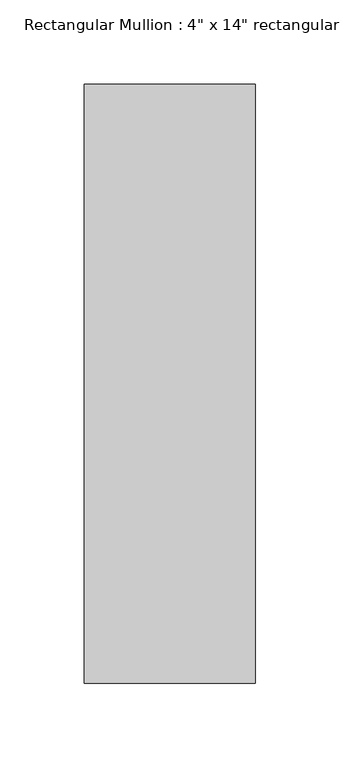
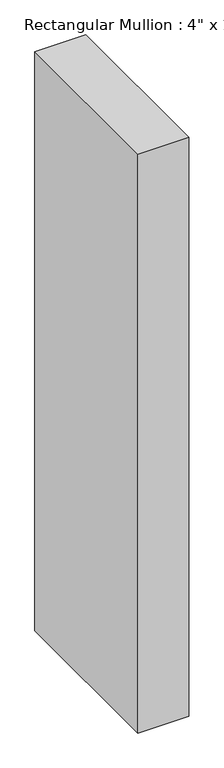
"""IFC4 building model written with IfcOpenShell, lengths in millimetres: member geometry."""

import ifcopenshell
import ifcopenshell.guid

model = None  # the IFC model being written
_history = None  # IfcOwnerHistory: only IFC2X3 demands one
_inside = {}  # id of a spatial element -> (the spatial element, [elements in it])
_under = {}  # id of a project, library or spatial element -> (it, [spatial elements below it])
_declared = {}  # id of a project -> (the project, [libraries it declares])
_typed = {}  # id of a type object -> (the type object, [elements of that type])
_made_of = {}  # id of a material, layer set ... -> (it, [elements and type objects made of it])


def new_model(schema):
    """Start an empty IFC model of exactly this schema.

    Asked for "IFC4X3", IfcOpenShell would pick the latest addendum, in which some entities
    have other attributes; the version numbers below select the first issue.
    IFC2X3 requires an IfcOwnerHistory on every rooted entity: one is made here for all.
    """
    global model, _history
    if schema == "IFC4X3":
        model = ifcopenshell.file(schema_version=(4, 3, 0, 0))
    else:
        model = ifcopenshell.file(schema=schema)
    _inside.clear()
    _under.clear()
    _declared.clear()
    _typed.clear()
    _made_of.clear()
    _history = None
    if model.schema == "IFC2X3":
        org = make("IfcOrganization", Name="unknown")
        user = make(
            "IfcPersonAndOrganization",
            ThePerson=make("IfcPerson", FamilyName="unknown"),
            TheOrganization=org,
        )
        app = make(
            "IfcApplication",
            ApplicationDeveloper=org,
            Version="unknown",
            ApplicationFullName="unknown",
            ApplicationIdentifier="unknown",
        )
        _history = make(
            "IfcOwnerHistory",
            OwningUser=user,
            OwningApplication=app,
            ChangeAction="ADDED",
            CreationDate=0,
        )
    return model


def make(cls, **values):
    """One entity of the class cls with the attributes given. An attribute that is None is left unset."""
    return model.create_entity(
        cls, **{name: value for name, value in values.items() if value is not None}
    )


def rooted(cls, **values):
    """An entity with a GlobalId (a new one), such as an element, a storey or a relation."""
    return make(cls, GlobalId=ifcopenshell.guid.new(), OwnerHistory=_history, **values)


def si_unit(unit_type, name, prefix=None):
    """IfcSIUnit, for example si_unit("LENGTHUNIT", "METRE", prefix="MILLI")."""
    return make("IfcSIUnit", UnitType=unit_type, Prefix=prefix, Name=name)


def assignment(units):
    """IfcUnitAssignment: the units of a project."""
    return None if units is None else make("IfcUnitAssignment", Units=units)


def point(xyz):
    """IfcCartesianPoint."""
    return None if xyz is None else make("IfcCartesianPoint", Coordinates=xyz)


def direction(xyz):
    """IfcDirection."""
    return None if xyz is None else make("IfcDirection", DirectionRatios=xyz)


def frame(location, z_axis=None, x_axis=None):
    """IfcAxis2Placement3D, a coordinate frame: its origin and axes. An axis left out is left unset."""
    return make(
        "IfcAxis2Placement3D",
        Location=point(location),
        Axis=direction(z_axis),
        RefDirection=direction(x_axis),
    )


def origin():
    """The frame at (0, 0, 0) with its axes left unset."""
    return frame((0.0, 0.0, 0.0))


def place(relative_to, where):
    """IfcLocalPlacement: puts the frame where relative to a parent placement (None: the world)."""
    return make(
        "IfcLocalPlacement", PlacementRelTo=relative_to, RelativePlacement=where
    )


def context(
    kind, dimensions, precision=None, world=None, true_north=None, identifier=None
):
    """IfcGeometricRepresentationContext, for example the 3D "Model" context."""
    return make(
        "IfcGeometricRepresentationContext",
        ContextIdentifier=identifier,
        ContextType=kind,
        CoordinateSpaceDimension=dimensions,
        Precision=precision,
        WorldCoordinateSystem=world,
        TrueNorth=true_north,
    )


def project(units=None, contexts=None):
    """IfcProject with its units and contexts."""
    return rooted(
        "IfcProject",
        Name="project",
        RepresentationContexts=contexts,
        UnitsInContext=assignment(units),
    )


def spatial(cls, under=None, at=None, **own):
    """A site, building, storey or space (cls), placed at a placement, below another one or the project."""
    s = rooted(cls, ObjectPlacement=at, **own)
    if under is not None:
        _under.setdefault(under.id(), (under, []))[1].append(s)
    return s


def polyline(points):
    """IfcPolyline through the points."""
    return make("IfcPolyline", Points=[point(p) for p in points])


def outline(outer, holes=None, kind="AREA"):
    """IfcArbitraryClosedProfileDef: a profile drawn as a closed curve; with holes, ...WithVoids."""
    if holes is None:
        return make("IfcArbitraryClosedProfileDef", ProfileType=kind, OuterCurve=outer)
    return make(
        "IfcArbitraryProfileDefWithVoids",
        ProfileType=kind,
        OuterCurve=outer,
        InnerCurves=holes,
    )


def extrude(swept, where, along, depth):
    """IfcExtrudedAreaSolid: the profile swept, set in the frame where, extruded along a direction by depth."""
    return make(
        "IfcExtrudedAreaSolid",
        SweptArea=swept,
        Position=where,
        ExtrudedDirection=direction(along),
        Depth=depth,
    )


def shape(context_of_items, identifier, shape_type, items):
    """IfcShapeRepresentation: the items that make up one representation, for example the "Body"."""
    return make(
        "IfcShapeRepresentation",
        ContextOfItems=context_of_items,
        RepresentationIdentifier=identifier,
        RepresentationType=shape_type,
        Items=items,
    )


def source(mapping_origin, context_of_items, identifier, shape_type, items):
    """IfcRepresentationMap: a shape defined once, which mapped items show again and again."""
    return make(
        "IfcRepresentationMap",
        MappingOrigin=mapping_origin,
        MappedRepresentation=shape(context_of_items, identifier, shape_type, items),
    )


def transform(
    local_origin,
    x_axis=None,
    y_axis=None,
    z_axis=None,
    scale=None,
    scale2=None,
    scale3=None,
    uniform=True,
):
    """IfcCartesianTransformationOperator3D, or its non-uniform kind. x_axis, y_axis, z_axis: its Axis1, 2, 3."""
    if uniform:
        return make(
            "IfcCartesianTransformationOperator3D",
            Axis1=direction(x_axis),
            Axis2=direction(y_axis),
            LocalOrigin=point(local_origin),
            Scale=scale,
            Axis3=direction(z_axis),
        )
    return make(
        "IfcCartesianTransformationOperator3DnonUniform",
        Axis1=direction(x_axis),
        Axis2=direction(y_axis),
        LocalOrigin=point(local_origin),
        Scale=scale,
        Axis3=direction(z_axis),
        Scale2=scale2,
        Scale3=scale3,
    )


def mapped(mapping_source, mapping_target):
    """IfcMappedItem: shows the shape of a source again, moved by a transform."""
    return make(
        "IfcMappedItem", MappingSource=mapping_source, MappingTarget=mapping_target
    )


def made_of(thing, what):
    """Note that an element or type object is made of a material, layer set ...; save() writes the relation."""
    if what is not None:
        _made_of.setdefault(what.id(), (what, []))[1].append(thing)
    return thing


def element(
    cls,
    number,
    at=None,
    inside=None,
    cuts=None,
    type_object=None,
    material=None,
    context=None,
    identifier="Body",
    shape_type=None,
    held_by="IfcProductDefinitionShape",
    body=None,
    shapes=None,
    **own,
):
    """One element of the class cls, such as IfcWall. Its Tag is "e" and its number.

    at: its placement. inside: the storey or other place that contains it. cuts: it is an
    opening in that element (IfcRelVoidsElement). A single representation is given by context,
    identifier, shape_type and body (its items); several are given by shapes. held_by: the class
    of the entity that holds the representations. save() writes the other relations.
    """
    e = rooted(cls, Tag="e%d" % number, ObjectPlacement=at, **own)
    if body is not None:
        shapes = [shape(context, identifier, shape_type, body)]
    if shapes is not None:
        e.Representation = make(held_by, Representations=shapes)
    if inside is not None:
        _inside.setdefault(inside.id(), (inside, []))[1].append(e)
    if cuts is not None:
        rooted(
            "IfcRelVoidsElement", RelatingBuildingElement=cuts, RelatedOpeningElement=e
        )
    if type_object is not None:
        _typed.setdefault(type_object.id(), (type_object, []))[1].append(e)
    return made_of(e, material)


def aggregate(whole, parts):
    """IfcRelAggregates: a whole, such as a stair, and the parts it consists of."""
    return rooted("IfcRelAggregates", RelatingObject=whole, RelatedObjects=parts)


def save(model, path):
    """Write the relations noted so far, then the file.

    IfcRelAggregates (storeys below a building ...), IfcRelContainedInSpatialStructure (elements
    in a storey), IfcRelDefinesByType, IfcRelAssociatesMaterial and IfcRelDeclares: one each for
    every whole, place, type object, material and project.
    """
    for whole, parts in _under.values():
        aggregate(whole, parts)
    for where, things in _inside.values():
        rooted(
            "IfcRelContainedInSpatialStructure",
            RelatedElements=things,
            RelatingStructure=where,
        )
    for kind, things in _typed.values():
        rooted("IfcRelDefinesByType", RelatedObjects=things, RelatingType=kind)
    for what, things in _made_of.values():
        rooted("IfcRelAssociatesMaterial", RelatedObjects=things, RelatingMaterial=what)
    for by, libraries in _declared.values():
        rooted("IfcRelDeclares", RelatingContext=by, RelatedDefinitions=libraries)
    model.write(path)


def member_a6758ac2(model_context):
    return source(origin(), model_context, "Body", "SweptSolid", [
        extrude(outline(polyline([(50.8, 292.1), (50.8, -63.5), (-50.8, -63.5), (-50.8, 292.1), (50.8, 292.1)])), frame((0.0, 0.0, -1219.2), z_axis=(0.0, 0.0, 1.0), x_axis=(1.0, 0.0, 0.0)), (0.0, 0.0, 1.0), 1219.2),
    ])


if __name__ == "__main__":
    model = new_model("IFC4")
    model_context = context("Model", 3, world=origin())
    ifc_project = project(units=[si_unit("LENGTHUNIT", "METRE", prefix="MILLI")], contexts=[model_context])
    site = spatial("IfcSite", under=ifc_project)
    building = spatial("IfcBuilding", under=site)
    placement = place(None, origin())
    member_shape = member_a6758ac2(model_context)
    element("IfcMember", 1, ObjectType="Rectangular Mullion : 4\" x 14\" rectangular", at=placement, inside=building, context=model_context, shape_type="MappedRepresentation", body=[
        mapped(member_shape, transform((0.0, 0.0, 0.0), x_axis=(1.0, 0.0, 0.0), y_axis=(0.0, 1.0, 0.0), z_axis=(0.0, 0.0, 1.0))),
    ])
    save(model, "model.ifc")
